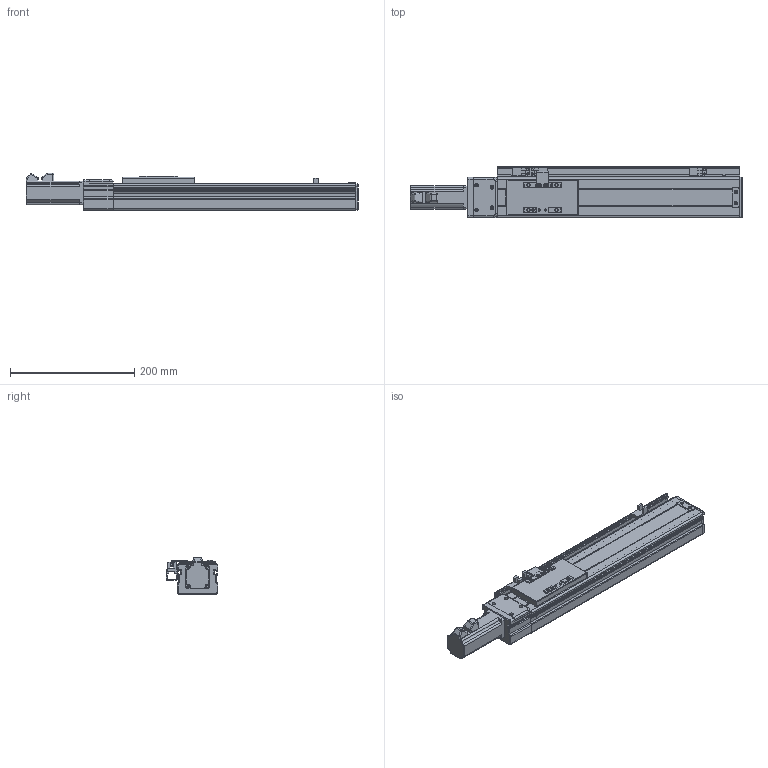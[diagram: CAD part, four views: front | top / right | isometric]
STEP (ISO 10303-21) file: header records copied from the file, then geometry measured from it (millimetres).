
FILE_DESCRIPTION (( 'STEP AP203' ), '1' );
FILE_NAME ('VT6-L10-C-S240-BC-P10-C4.STEP', '2015-10-26T05:56:22', ( '' ), ( '' ), 'SwSTEP 2.0', 'SolidWorks 2013', '' );
FILE_SCHEMA (( 'CONFIG_CONTROL_DESIGN' ));
Length unit declared in the file: millimetre
Products named in the file (15): ET6-BC耜啣_240; ET6-BC癹弇羲壽羞_240; T6-賑雄殤; T6-裔啣; T6-揤輸; T6-覜茼え; T6-綴傷裔; EE-XS674; ET6-BC絳寢_俴最240; ET6-BC滅鳥湍_240; T6-BCヶ傷裔揤啣; T6-BCヶ傷裔; 侂狟100W MSMD012G1U; ET6-BC佪裝_240; VT6-L10-C-S240-BC-P10-C4
Assembly tree (17 placements, depth 2):
  VT6-L10-C-S240-BC-P10-C4
    ET6-BC耜啣_240  x2
    ET6-BC癹弇羲壽羞_240
    T6-賑雄殤
    T6-裔啣
    T6-揤輸
    T6-覜茼え
    T6-綴傷裔
    EE-XS674  x3
    ET6-BC絳寢_俴最240
    ET6-BC滅鳥湍_240
    T6-BCヶ傷裔揤啣
    T6-BCヶ傷裔
    侂狟100W MSMD012G1U
    ET6-BC佪裝_240
Bounding box: 534 x 83 x 61 mm (x, y, z)
Volume: 673189.7 mm3; surface area: 348007.9 mm2
Topology: 17 solids, 17 shells, 868 faces, 2289 edges, 1444 vertices
Faces by surface type: cylinder 388, plane 378, cone 56, torus 28, sphere 18
Entity records: 26514 total; most frequent: CARTESIAN_POINT 4609, DIRECTION 4409, ORIENTED_EDGE 4104, EDGE_CURVE 2052, AXIS2_PLACEMENT_3D 1596, VERTEX_POINT 1304, VECTOR 1217, LINE 1217
